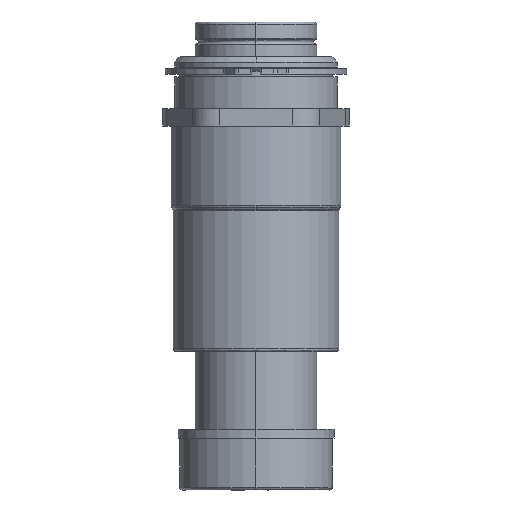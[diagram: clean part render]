
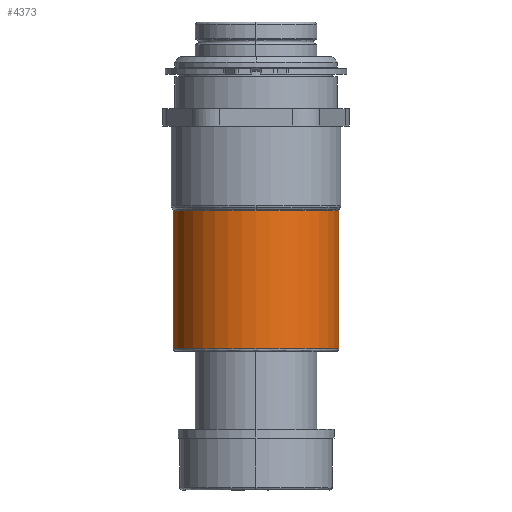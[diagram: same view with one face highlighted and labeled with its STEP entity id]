
A CAD part, left-side view. The second image highlights one B-rep face of the part: STEP entity #4373.
In plain terms, the highlighted cylindrical face has radius 30.353 mm (diameter 60.706 mm), a partial arc.
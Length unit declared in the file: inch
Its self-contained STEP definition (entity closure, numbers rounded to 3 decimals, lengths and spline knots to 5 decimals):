
#97 = DIRECTION ( 'NONE',  ( 0., 0., -1. ) ) ;
#180 = CARTESIAN_POINT ( 'NONE',  ( 0., -3.21, 1.195 ) ) ;
#296 = AXIS2_PLACEMENT_3D ( 'NONE', #2790, #3558, #97 ) ;
#346 = CARTESIAN_POINT ( 'NONE',  ( -1.195, -1.225, 0. ) ) ;
#512 = EDGE_LOOP ( 'NONE', ( #1351, #2863, #2680, #1775, #3725 ) ) ;
#587 = DIRECTION ( 'NONE',  ( 0., -1., 0. ) ) ;
#734 = EDGE_CURVE ( 'NONE', #2768, #2516, #3182, .T. ) ;
#772 = DIRECTION ( 'NONE',  ( 0., 0., 1. ) ) ;
#1001 = DIRECTION ( 'NONE',  ( 0., 1., 0. ) ) ;
#1126 = CIRCLE ( 'NONE', #296, 1.195 ) ;
#1154 = CARTESIAN_POINT ( 'NONE',  ( 0., -1.225, 0. ) ) ;
#1180 = VERTEX_POINT ( 'NONE', #1184 ) ;
#1184 = CARTESIAN_POINT ( 'NONE',  ( 0., -3.21, -1.195 ) ) ;
#1223 = AXIS2_PLACEMENT_3D ( 'NONE', #1154, #2664, #772 ) ;
#1245 = CYLINDRICAL_SURFACE ( 'NONE', #2964, 1.195 ) ;
#1351 = ORIENTED_EDGE ( 'NONE', *, *, #2650, .F. ) ;
#1443 = LINE ( 'NONE', #3900, #4160 ) ;
#1590 = CARTESIAN_POINT ( 'NONE',  ( 0., -3.25, 0. ) ) ;
#1597 = DIRECTION ( 'NONE',  ( 0., 1., 0. ) ) ;
#1605 = DIRECTION ( 'NONE',  ( 0., 0., 1. ) ) ;
#1775 = ORIENTED_EDGE ( 'NONE', *, *, #734, .T. ) ;
#1901 = VECTOR ( 'NONE', #1001, 39.37008 ) ;
#1992 = EDGE_CURVE ( 'NONE', #2516, #2812, #2505, .T. ) ;
#2505 = CIRCLE ( 'NONE', #1223, 1.195 ) ;
#2516 = VERTEX_POINT ( 'NONE', #346 ) ;
#2650 = EDGE_CURVE ( 'NONE', #1180, #2812, #1443, .T. ) ;
#2664 = DIRECTION ( 'NONE',  ( 0., -1., 0. ) ) ;
#2680 = ORIENTED_EDGE ( 'NONE', *, *, #3773, .T. ) ;
#2768 = VERTEX_POINT ( 'NONE', #4611 ) ;
#2790 = CARTESIAN_POINT ( 'NONE',  ( 0., -3.21, 0. ) ) ;
#2812 = VERTEX_POINT ( 'NONE', #3213 ) ;
#2854 = CARTESIAN_POINT ( 'NONE',  ( 0., -1.225, 0. ) ) ;
#2863 = ORIENTED_EDGE ( 'NONE', *, *, #3616, .F. ) ;
#2914 = AXIS2_PLACEMENT_3D ( 'NONE', #2854, #587, #4308 ) ;
#2964 = AXIS2_PLACEMENT_3D ( 'NONE', #1590, #3858, #1605 ) ;
#3182 = CIRCLE ( 'NONE', #2914, 1.195 ) ;
#3195 = FACE_OUTER_BOUND ( 'NONE', #512, .T. ) ;
#3213 = CARTESIAN_POINT ( 'NONE',  ( 0., -1.225, -1.195 ) ) ;
#3558 = DIRECTION ( 'NONE',  ( 0., -1., 0. ) ) ;
#3616 = EDGE_CURVE ( 'NONE', #4522, #1180, #1126, .T. ) ;
#3725 = ORIENTED_EDGE ( 'NONE', *, *, #1992, .T. ) ;
#3773 = EDGE_CURVE ( 'NONE', #4522, #2768, #4313, .T. ) ;
#3858 = DIRECTION ( 'NONE',  ( 0., 1., 0. ) ) ;
#3900 = CARTESIAN_POINT ( 'NONE',  ( 0., -3.25, -1.195 ) ) ;
#4160 = VECTOR ( 'NONE', #1597, 39.37008 ) ;
#4308 = DIRECTION ( 'NONE',  ( 0., 0., 1. ) ) ;
#4313 = LINE ( 'NONE', #4500, #1901 ) ;
#4373 = ADVANCED_FACE ( 'NONE', ( #3195 ), #1245, .T. ) ;
#4500 = CARTESIAN_POINT ( 'NONE',  ( 0., -3.25, 1.195 ) ) ;
#4522 = VERTEX_POINT ( 'NONE', #180 ) ;
#4611 = CARTESIAN_POINT ( 'NONE',  ( 0., -1.225, 1.195 ) ) ;
